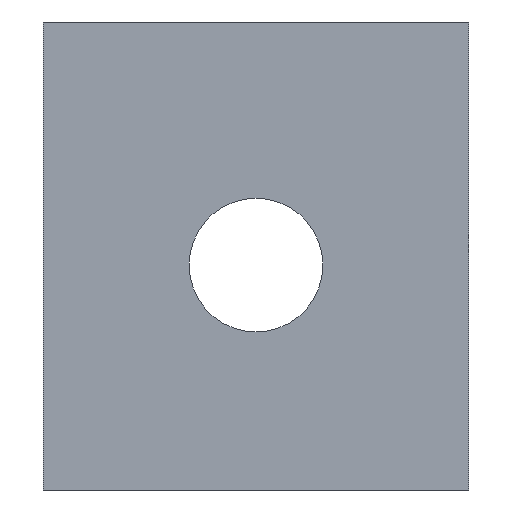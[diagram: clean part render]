
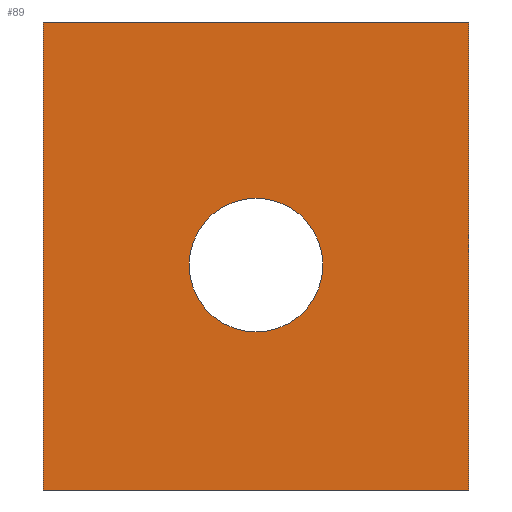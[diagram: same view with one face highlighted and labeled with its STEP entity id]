
A CAD part, front view. The second image highlights one B-rep face of the part: STEP entity #89.
In plain terms, the highlighted planar face has unit normal (0, -1, 0).
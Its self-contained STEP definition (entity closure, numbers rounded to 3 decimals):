
#2 = FACE_OUTER_BOUND ( 'NONE', #91, .T. ) ;
#4 = CARTESIAN_POINT ( 'NONE',  ( 0., 0., 0. ) ) ;
#10 = DIRECTION ( 'NONE',  ( 0., 0., 1. ) ) ;
#12 = FACE_BOUND ( 'NONE', #231, .T. ) ;
#16 = LINE ( 'NONE', #173, #112 ) ;
#25 = DIRECTION ( 'NONE',  ( 0., 0., 1. ) ) ;
#26 = DIRECTION ( 'NONE',  ( 0., -1., 0. ) ) ;
#30 = CARTESIAN_POINT ( 'NONE',  ( 0., 0., -77. ) ) ;
#40 = EDGE_CURVE ( 'NONE', #247, #169, #16, .T. ) ;
#51 = CARTESIAN_POINT ( 'NONE',  ( 0., 0., 0. ) ) ;
#52 = ORIENTED_EDGE ( 'NONE', *, *, #170, .F. ) ;
#53 = EDGE_CURVE ( 'NONE', #224, #203, #188, .T. ) ;
#55 = DIRECTION ( 'NONE',  ( 1., 0., 0. ) ) ;
#56 = CARTESIAN_POINT ( 'NONE',  ( 35., 0., -29. ) ) ;
#71 = CIRCLE ( 'NONE', #208, 11. ) ;
#72 = CARTESIAN_POINT ( 'NONE',  ( 0., 0., -77. ) ) ;
#74 = CARTESIAN_POINT ( 'NONE',  ( 35., 0., -40. ) ) ;
#76 = CARTESIAN_POINT ( 'NONE',  ( 0., 0., 0. ) ) ;
#89 = ADVANCED_FACE ( 'NONE', ( #2, #12 ), #249, .T. ) ;
#91 = EDGE_LOOP ( 'NONE', ( #148, #187, #101, #52 ) ) ;
#101 = ORIENTED_EDGE ( 'NONE', *, *, #40, .F. ) ;
#102 = EDGE_CURVE ( 'NONE', #169, #253, #273, .T. ) ;
#112 = VECTOR ( 'NONE', #251, 1000. ) ;
#122 = DIRECTION ( 'NONE',  ( -1., 0., 0. ) ) ;
#124 = AXIS2_PLACEMENT_3D ( 'NONE', #74, #151, #25 ) ;
#148 = ORIENTED_EDGE ( 'NONE', *, *, #168, .F. ) ;
#151 = DIRECTION ( 'NONE',  ( 0., 1., 0. ) ) ;
#152 = CARTESIAN_POINT ( 'NONE',  ( 0., 0., 0. ) ) ;
#155 = DIRECTION ( 'NONE',  ( 0., 1., 0. ) ) ;
#166 = VECTOR ( 'NONE', #255, 1000. ) ;
#168 = EDGE_CURVE ( 'NONE', #253, #199, #228, .T. ) ;
#169 = VERTEX_POINT ( 'NONE', #252 ) ;
#170 = EDGE_CURVE ( 'NONE', #199, #247, #205, .T. ) ;
#171 = VECTOR ( 'NONE', #55, 1000. ) ;
#173 = CARTESIAN_POINT ( 'NONE',  ( 70., 0., 0. ) ) ;
#183 = CARTESIAN_POINT ( 'NONE',  ( 70., 0., 0. ) ) ;
#187 = ORIENTED_EDGE ( 'NONE', *, *, #102, .F. ) ;
#188 = CIRCLE ( 'NONE', #124, 11. ) ;
#193 = ORIENTED_EDGE ( 'NONE', *, *, #246, .T. ) ;
#195 = AXIS2_PLACEMENT_3D ( 'NONE', #152, #26, #274 ) ;
#196 = VECTOR ( 'NONE', #122, 1000. ) ;
#199 = VERTEX_POINT ( 'NONE', #51 ) ;
#203 = VERTEX_POINT ( 'NONE', #56 ) ;
#205 = LINE ( 'NONE', #76, #171 ) ;
#206 = CARTESIAN_POINT ( 'NONE',  ( 35., 0., -40. ) ) ;
#208 = AXIS2_PLACEMENT_3D ( 'NONE', #206, #155, #10 ) ;
#224 = VERTEX_POINT ( 'NONE', #232 ) ;
#226 = ORIENTED_EDGE ( 'NONE', *, *, #53, .T. ) ;
#228 = LINE ( 'NONE', #4, #166 ) ;
#231 = EDGE_LOOP ( 'NONE', ( #226, #193 ) ) ;
#232 = CARTESIAN_POINT ( 'NONE',  ( 35., 0., -51. ) ) ;
#246 = EDGE_CURVE ( 'NONE', #203, #224, #71, .T. ) ;
#247 = VERTEX_POINT ( 'NONE', #183 ) ;
#249 = PLANE ( 'NONE',  #195 ) ;
#251 = DIRECTION ( 'NONE',  ( 0., 0., -1. ) ) ;
#252 = CARTESIAN_POINT ( 'NONE',  ( 70., 0., -77. ) ) ;
#253 = VERTEX_POINT ( 'NONE', #30 ) ;
#255 = DIRECTION ( 'NONE',  ( 0., 0., 1. ) ) ;
#273 = LINE ( 'NONE', #72, #196 ) ;
#274 = DIRECTION ( 'NONE',  ( 0., 0., -1. ) ) ;
